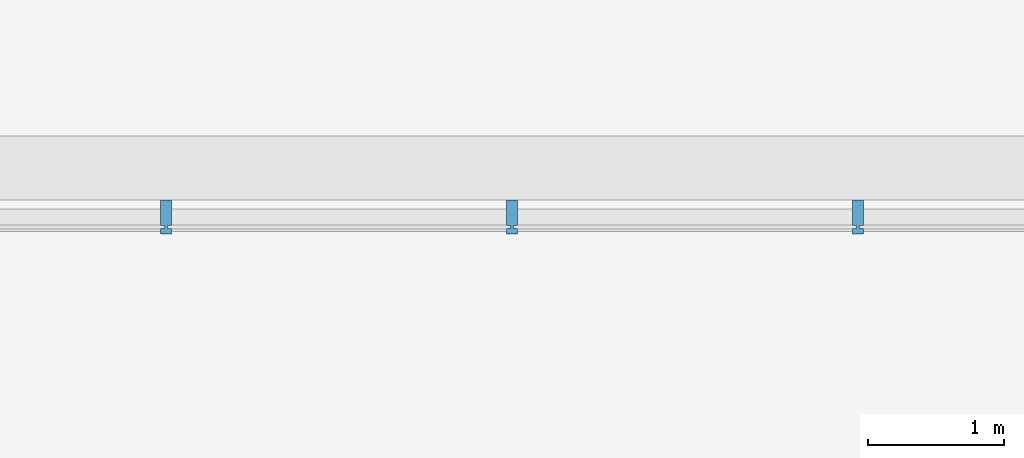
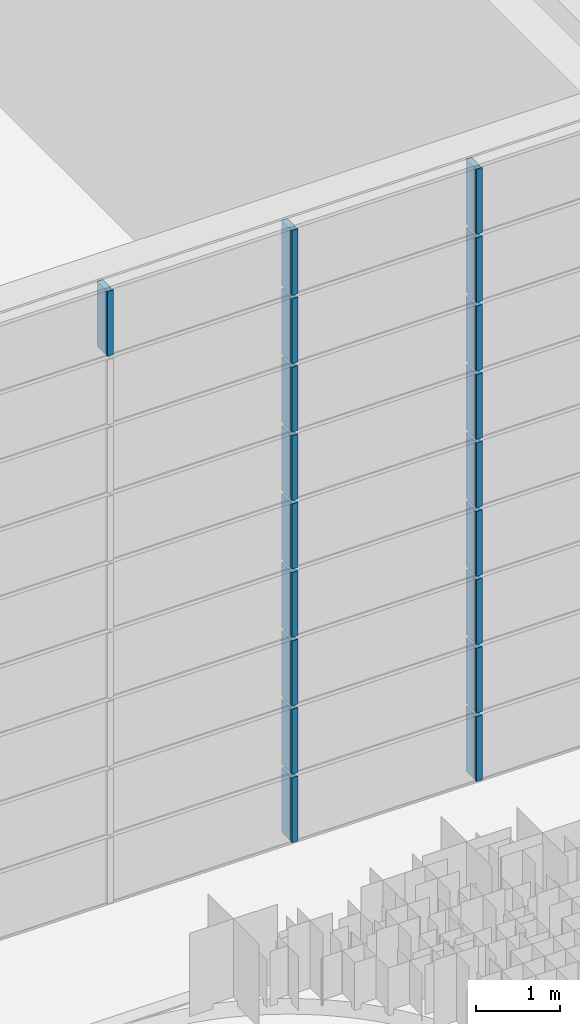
# One storey, part 96 of 105: 19 building element parts, 3 elements without a shape of their own.
"""IFC4 building model written with IfcOpenShell, lengths in millimetres."""

from ifc_helpers import new_model, entity, si_unit, converted_unit, derived_unit, direction, frame, origin_with_axes, place, context, subcontext, project, spatial, triangles, material, element, aggregate, save


model = new_model("IFC4")

# Units and contexts
model_context = context("Model", 3, precision=1e-05, world=origin_with_axes(), true_north=direction((0.0, 1.0)))
body_context = subcontext(model_context, "Body", "Model", "MODEL_VIEW")
ifc_project = project(units=[si_unit("LENGTHUNIT", "METRE", prefix="MILLI"), si_unit("AREAUNIT", "SQUARE_METRE"), si_unit("VOLUMEUNIT", "CUBIC_METRE"), converted_unit("PLANEANGLEUNIT", "DEGREE", entity("IfcLengthMeasure", 0.017453), si_unit("PLANEANGLEUNIT", "RADIAN"), dimensions=[0, 0, 0, 0, 0, 0, 0]), si_unit("SOLIDANGLEUNIT", "STERADIAN"), si_unit("MASSUNIT", "GRAM"), si_unit("TIMEUNIT", "SECOND"), si_unit("THERMODYNAMICTEMPERATUREUNIT", "DEGREE_CELSIUS"), si_unit("LUMINOUSINTENSITYUNIT", "LUMEN"), si_unit("POWERUNIT", "WATT"), derived_unit("THERMALTRANSMITTANCEUNIT", [(si_unit("POWERUNIT", "WATT"), 1), (si_unit("THERMODYNAMICTEMPERATUREUNIT", "KELVIN"), -1), (si_unit("AREAUNIT", "SQUARE_METRE"), -1)])], contexts=[model_context])

# Site, building, storey
site_placement = place(None, origin_with_axes())
site = spatial("IfcSite", under=ifc_project, at=site_placement, Name="Default Site", CompositionType="ELEMENT")
building_placement = place(site_placement, origin_with_axes())
building = spatial("IfcBuilding", under=site, at=building_placement, Name="Default Building", CompositionType="ELEMENT")
storey_placement = place(building_placement, origin_with_axes())
storey = spatial("IfcBuildingStorey", under=building, at=storey_placement, Name="OG - Story", CompositionType="ELEMENT", Elevation=0.0)

# Curtain wall, building element parts
curtain_wall_1_placement = place(storey_placement, origin_with_axes())
curtain_wall_1 = element("IfcCurtainWall", 1, at=curtain_wall_1_placement, inside=storey, Name="Fassade-005", PredefinedType="NOTDEFINED")
ifc_material = material(Name="Blech")
building_element_part_1_placement = place(curtain_wall_1_placement, frame((52496.845873, -27789.262838, 3000.0), z_axis=(0.0, 0.0, 1.0), x_axis=(1.0, 0.0, 0.0)))
building_element_part_1 = element("IfcBuildingElementPart", 2, at=building_element_part_1_placement, material=ifc_material, Name="Blech", PredefinedType="NOTDEFINED", context=body_context, shape_type="Tessellation", body=[
    triangles([(21722.727, 10.0, 975.0), (21722.727, 200.0, 975.0), (21692.727, 10.0, 975.0), (21672.727, 10.0, 975.0), (21692.727, -9.999, 975.0), (21722.727, -49.999, 975.0), (21722.727, -9.999, 975.0), (21642.727, 200.0, 975.0), (21642.727, 10.0, 975.0), (21672.727, -9.999, 975.0), (21642.727, -9.999, 975.0), (21642.727, -49.999, 975.0), (21692.727, 10.0, 25.0), (21722.727, 10.0, 25.0), (21722.727, 200.0, 25.0), (21642.727, 200.0, 25.0), (21642.727, 10.0, 25.0), (21672.727, 10.0, 25.0), (21672.727, -9.999, 25.0), (21642.727, -9.999, 25.0), (21642.727, -49.999, 25.0), (21722.727, -49.999, 25.0), (21722.727, -9.999, 25.0), (21692.727, -9.999, 25.0)], [[1, 2, 3], [3, 2, 4], [3, 4, 5], [5, 4, 6], [5, 6, 7], [8, 9, 4], [8, 4, 2], [6, 4, 10], [6, 10, 11], [6, 11, 12], [1, 3, 13], [1, 13, 14], [1, 14, 15], [1, 15, 2], [2, 15, 16], [2, 16, 8], [9, 8, 16], [9, 16, 17], [9, 17, 18], [9, 18, 4], [4, 18, 19], [4, 19, 10], [11, 10, 19], [11, 19, 20], [20, 21, 12], [20, 12, 11], [12, 21, 22], [12, 22, 6], [23, 7, 6], [23, 6, 22], [5, 7, 23], [5, 23, 24], [3, 5, 24], [3, 24, 13], [23, 22, 24], [24, 22, 19], [24, 19, 13], [13, 19, 15], [13, 15, 14], [21, 20, 19], [21, 19, 22], [15, 19, 18], [15, 18, 17], [15, 17, 16]], closed=False),
])
building_element_part_2_placement = place(curtain_wall_1_placement, frame((52496.845873, -27789.262838, 3000.0), z_axis=(0.0, 0.0, 1.0), x_axis=(1.0, 0.0, 0.0)))
building_element_part_2 = element("IfcBuildingElementPart", 3, at=building_element_part_2_placement, material=ifc_material, Name="Blech", PredefinedType="NOTDEFINED", context=body_context, shape_type="Tessellation", body=[
    triangles([(24273.636, 10.0, 975.0), (24273.636, 200.0, 975.0), (24243.636, 10.0, 975.0), (24223.636, 10.0, 975.0), (24243.636, -9.999, 975.0), (24273.636, -49.999, 975.0), (24273.636, -9.999, 975.0), (24193.636, 200.0, 975.0), (24193.636, 10.0, 975.0), (24223.636, -9.999, 975.0), (24193.636, -9.999, 975.0), (24193.636, -49.999, 975.0), (24243.636, 10.0, 25.0), (24273.636, 10.0, 25.0), (24273.636, 200.0, 25.0), (24193.636, 200.0, 25.0), (24193.636, 10.0, 25.0), (24223.636, 10.0, 25.0), (24223.636, -9.999, 25.0), (24193.636, -9.999, 25.0), (24193.636, -49.999, 25.0), (24273.636, -49.999, 25.0), (24273.636, -9.999, 25.0), (24243.636, -9.999, 25.0)], [[1, 2, 3], [3, 2, 4], [3, 4, 5], [5, 4, 6], [5, 6, 7], [8, 9, 4], [8, 4, 2], [6, 4, 10], [6, 10, 11], [6, 11, 12], [1, 3, 13], [1, 13, 14], [1, 14, 15], [1, 15, 2], [2, 15, 16], [2, 16, 8], [9, 8, 16], [9, 16, 17], [9, 17, 18], [9, 18, 4], [4, 18, 19], [4, 19, 10], [11, 10, 19], [11, 19, 20], [20, 21, 12], [20, 12, 11], [12, 21, 22], [12, 22, 6], [23, 7, 6], [23, 6, 22], [5, 7, 23], [5, 23, 24], [3, 5, 24], [3, 24, 13], [23, 22, 24], [24, 22, 19], [24, 19, 13], [13, 19, 15], [13, 15, 14], [21, 20, 19], [21, 19, 22], [15, 19, 18], [15, 18, 17], [15, 17, 16]], closed=False),
])
building_element_part_3_placement = place(curtain_wall_1_placement, frame((52496.845873, -27789.262838, 3000.0), z_axis=(0.0, 0.0, 1.0), x_axis=(1.0, 0.0, 0.0)))
building_element_part_3 = element("IfcBuildingElementPart", 4, at=building_element_part_3_placement, material=ifc_material, Name="Blech", PredefinedType="NOTDEFINED", context=body_context, shape_type="Tessellation", body=[
    triangles([(21722.727, 10.0, 1975.0), (21722.727, 200.0, 1975.0), (21692.727, 10.0, 1975.0), (21672.727, 10.0, 1975.0), (21692.727, -9.999, 1975.0), (21722.727, -49.999, 1975.0), (21722.727, -9.999, 1975.0), (21642.727, 200.0, 1975.0), (21642.727, 10.0, 1975.0), (21672.727, -9.999, 1975.0), (21642.727, -9.999, 1975.0), (21642.727, -49.999, 1975.0), (21692.727, 10.0, 1025.0), (21722.727, 10.0, 1025.0), (21722.727, 200.0, 1025.0), (21642.727, 200.0, 1025.0), (21642.727, 10.0, 1025.0), (21672.727, 10.0, 1025.0), (21672.727, -9.999, 1025.0), (21642.727, -9.999, 1025.0), (21642.727, -49.999, 1025.0), (21722.727, -49.999, 1025.0), (21722.727, -9.999, 1025.0), (21692.727, -9.999, 1025.0)], [[1, 2, 3], [3, 2, 4], [3, 4, 5], [5, 4, 6], [5, 6, 7], [8, 9, 4], [8, 4, 2], [6, 4, 10], [6, 10, 11], [6, 11, 12], [1, 3, 13], [1, 13, 14], [1, 14, 15], [1, 15, 2], [2, 15, 16], [2, 16, 8], [9, 8, 16], [9, 16, 17], [9, 17, 18], [9, 18, 4], [4, 18, 19], [4, 19, 10], [11, 10, 19], [11, 19, 20], [20, 21, 12], [20, 12, 11], [12, 21, 22], [12, 22, 6], [23, 7, 6], [23, 6, 22], [5, 7, 23], [5, 23, 24], [3, 5, 24], [3, 24, 13], [23, 22, 24], [24, 22, 19], [24, 19, 13], [13, 19, 15], [13, 15, 14], [21, 20, 19], [21, 19, 22], [15, 19, 18], [15, 18, 17], [15, 17, 16]], closed=False),
])
building_element_part_4_placement = place(curtain_wall_1_placement, frame((52496.845873, -27789.262838, 3000.0), z_axis=(0.0, 0.0, 1.0), x_axis=(1.0, 0.0, 0.0)))
building_element_part_4 = element("IfcBuildingElementPart", 5, at=building_element_part_4_placement, material=ifc_material, Name="Blech", PredefinedType="NOTDEFINED", context=body_context, shape_type="Tessellation", body=[
    triangles([(24273.636, 10.0, 1975.0), (24273.636, 200.0, 1975.0), (24243.636, 10.0, 1975.0), (24223.636, 10.0, 1975.0), (24243.636, -9.999, 1975.0), (24273.636, -49.999, 1975.0), (24273.636, -9.999, 1975.0), (24193.636, 200.0, 1975.0), (24193.636, 10.0, 1975.0), (24223.636, -9.999, 1975.0), (24193.636, -9.999, 1975.0), (24193.636, -49.999, 1975.0), (24243.636, 10.0, 1025.0), (24273.636, 10.0, 1025.0), (24273.636, 200.0, 1025.0), (24193.636, 200.0, 1025.0), (24193.636, 10.0, 1025.0), (24223.636, 10.0, 1025.0), (24223.636, -9.999, 1025.0), (24193.636, -9.999, 1025.0), (24193.636, -49.999, 1025.0), (24273.636, -49.999, 1025.0), (24273.636, -9.999, 1025.0), (24243.636, -9.999, 1025.0)], [[1, 2, 3], [3, 2, 4], [3, 4, 5], [5, 4, 6], [5, 6, 7], [8, 9, 4], [8, 4, 2], [6, 4, 10], [6, 10, 11], [6, 11, 12], [1, 3, 13], [1, 13, 14], [1, 14, 15], [1, 15, 2], [2, 15, 16], [2, 16, 8], [9, 8, 16], [9, 16, 17], [9, 17, 18], [9, 18, 4], [4, 18, 19], [4, 19, 10], [11, 10, 19], [11, 19, 20], [20, 21, 12], [20, 12, 11], [12, 21, 22], [12, 22, 6], [23, 7, 6], [23, 6, 22], [5, 7, 23], [5, 23, 24], [3, 5, 24], [3, 24, 13], [23, 22, 24], [24, 22, 19], [24, 19, 13], [13, 19, 15], [13, 15, 14], [21, 20, 19], [21, 19, 22], [15, 19, 18], [15, 18, 17], [15, 17, 16]], closed=False),
])
building_element_part_5_placement = place(curtain_wall_1_placement, frame((52496.845873, -27789.262838, 3000.0), z_axis=(0.0, 0.0, 1.0), x_axis=(1.0, 0.0, 0.0)))
building_element_part_5 = element("IfcBuildingElementPart", 6, at=building_element_part_5_placement, material=ifc_material, Name="Blech", PredefinedType="NOTDEFINED", context=body_context, shape_type="Tessellation", body=[
    triangles([(24273.636, 10.0, 2975.0), (24273.636, 200.0, 2975.0), (24243.636, 10.0, 2975.0), (24223.636, 10.0, 2975.0), (24243.636, -9.999, 2975.0), (24273.636, -49.999, 2975.0), (24273.636, -9.999, 2975.0), (24193.636, 200.0, 2975.0), (24193.636, 10.0, 2975.0), (24223.636, -9.999, 2975.0), (24193.636, -9.999, 2975.0), (24193.636, -49.999, 2975.0), (24243.636, 10.0, 2025.0), (24273.636, 10.0, 2025.0), (24273.636, 200.0, 2025.0), (24193.636, 200.0, 2025.0), (24193.636, 10.0, 2025.0), (24223.636, 10.0, 2025.0), (24223.636, -9.999, 2025.0), (24193.636, -9.999, 2025.0), (24193.636, -49.999, 2025.0), (24273.636, -49.999, 2025.0), (24273.636, -9.999, 2025.0), (24243.636, -9.999, 2025.0)], [[1, 2, 3], [3, 2, 4], [3, 4, 5], [5, 4, 6], [5, 6, 7], [8, 9, 4], [8, 4, 2], [6, 4, 10], [6, 10, 11], [6, 11, 12], [1, 3, 13], [1, 13, 14], [1, 14, 15], [1, 15, 2], [2, 15, 16], [2, 16, 8], [9, 8, 16], [9, 16, 17], [9, 17, 18], [9, 18, 4], [4, 18, 19], [4, 19, 10], [11, 10, 19], [11, 19, 20], [20, 21, 12], [20, 12, 11], [12, 21, 22], [12, 22, 6], [23, 7, 6], [23, 6, 22], [5, 7, 23], [5, 23, 24], [3, 5, 24], [3, 24, 13], [23, 22, 24], [24, 22, 19], [24, 19, 13], [13, 19, 15], [13, 15, 14], [21, 20, 19], [21, 19, 22], [15, 19, 18], [15, 18, 17], [15, 17, 16]], closed=False),
])
building_element_part_6_placement = place(curtain_wall_1_placement, frame((52496.845873, -27789.262838, 3000.0), z_axis=(0.0, 0.0, 1.0), x_axis=(1.0, 0.0, 0.0)))
building_element_part_6 = element("IfcBuildingElementPart", 7, at=building_element_part_6_placement, material=ifc_material, Name="Blech", PredefinedType="NOTDEFINED", context=body_context, shape_type="Tessellation", body=[
    triangles([(21722.727, 10.0, 2975.0), (21722.727, 200.0, 2975.0), (21692.727, 10.0, 2975.0), (21672.727, 10.0, 2975.0), (21692.727, -9.999, 2975.0), (21722.727, -49.999, 2975.0), (21722.727, -9.999, 2975.0), (21642.727, 200.0, 2975.0), (21642.727, 10.0, 2975.0), (21672.727, -9.999, 2975.0), (21642.727, -9.999, 2975.0), (21642.727, -49.999, 2975.0), (21692.727, 10.0, 2025.0), (21722.727, 10.0, 2025.0), (21722.727, 200.0, 2025.0), (21642.727, 200.0, 2025.0), (21642.727, 10.0, 2025.0), (21672.727, 10.0, 2025.0), (21672.727, -9.999, 2025.0), (21642.727, -9.999, 2025.0), (21642.727, -49.999, 2025.0), (21722.727, -49.999, 2025.0), (21722.727, -9.999, 2025.0), (21692.727, -9.999, 2025.0)], [[1, 2, 3], [3, 2, 4], [3, 4, 5], [5, 4, 6], [5, 6, 7], [8, 9, 4], [8, 4, 2], [6, 4, 10], [6, 10, 11], [6, 11, 12], [1, 3, 13], [1, 13, 14], [1, 14, 15], [1, 15, 2], [2, 15, 16], [2, 16, 8], [9, 8, 16], [9, 16, 17], [9, 17, 18], [9, 18, 4], [4, 18, 19], [4, 19, 10], [11, 10, 19], [11, 19, 20], [20, 21, 12], [20, 12, 11], [12, 21, 22], [12, 22, 6], [23, 7, 6], [23, 6, 22], [5, 7, 23], [5, 23, 24], [3, 5, 24], [3, 24, 13], [23, 22, 24], [24, 22, 19], [24, 19, 13], [13, 19, 15], [13, 15, 14], [21, 20, 19], [21, 19, 22], [15, 19, 18], [15, 18, 17], [15, 17, 16]], closed=False),
])
aggregate(curtain_wall_1, [building_element_part_1, building_element_part_2, building_element_part_3, building_element_part_4, building_element_part_5, building_element_part_6])

curtain_wall_2_placement = place(storey_placement, origin_with_axes())
curtain_wall_2 = element("IfcCurtainWall", 8, at=curtain_wall_2_placement, inside=storey, Name="Fassade-005", PredefinedType="NOTDEFINED")
building_element_part_7_placement = place(curtain_wall_2_placement, frame((52496.845873, -27789.262838, 6000.0), z_axis=(0.0, 0.0, 1.0), x_axis=(1.0, 0.0, 0.0)))
building_element_part_7 = element("IfcBuildingElementPart", 9, at=building_element_part_7_placement, material=ifc_material, Name="Blech", PredefinedType="NOTDEFINED", context=body_context, shape_type="Tessellation", body=[
    triangles([(21722.727, 10.0, 975.0), (21722.727, 200.0, 975.0), (21692.727, 10.0, 975.0), (21672.727, 10.0, 975.0), (21692.727, -9.999, 975.0), (21722.727, -49.999, 975.0), (21722.727, -9.999, 975.0), (21642.727, 200.0, 975.0), (21642.727, 10.0, 975.0), (21672.727, -9.999, 975.0), (21642.727, -9.999, 975.0), (21642.727, -49.999, 975.0), (21692.727, 10.0, 25.0), (21722.727, 10.0, 25.0), (21722.727, 200.0, 25.0), (21642.727, 200.0, 25.0), (21642.727, 10.0, 25.0), (21672.727, 10.0, 25.0), (21672.727, -9.999, 25.0), (21642.727, -9.999, 25.0), (21642.727, -49.999, 25.0), (21722.727, -49.999, 25.0), (21722.727, -9.999, 25.0), (21692.727, -9.999, 25.0)], [[1, 2, 3], [3, 2, 4], [3, 4, 5], [5, 4, 6], [5, 6, 7], [8, 9, 4], [8, 4, 2], [6, 4, 10], [6, 10, 11], [6, 11, 12], [1, 3, 13], [1, 13, 14], [1, 14, 15], [1, 15, 2], [2, 15, 16], [2, 16, 8], [9, 8, 16], [9, 16, 17], [9, 17, 18], [9, 18, 4], [4, 18, 19], [4, 19, 10], [11, 10, 19], [11, 19, 20], [20, 21, 12], [20, 12, 11], [12, 21, 22], [12, 22, 6], [23, 7, 6], [23, 6, 22], [5, 7, 23], [5, 23, 24], [3, 5, 24], [3, 24, 13], [23, 22, 24], [24, 22, 19], [24, 19, 13], [13, 19, 15], [13, 15, 14], [21, 20, 19], [21, 19, 22], [15, 19, 18], [15, 18, 17], [15, 17, 16]], closed=False),
])
building_element_part_8_placement = place(curtain_wall_2_placement, frame((52496.845873, -27789.262838, 6000.0), z_axis=(0.0, 0.0, 1.0), x_axis=(1.0, 0.0, 0.0)))
building_element_part_8 = element("IfcBuildingElementPart", 10, at=building_element_part_8_placement, material=ifc_material, Name="Blech", PredefinedType="NOTDEFINED", context=body_context, shape_type="Tessellation", body=[
    triangles([(24273.636, 10.0, 975.0), (24273.636, 200.0, 975.0), (24243.636, 10.0, 975.0), (24223.636, 10.0, 975.0), (24243.636, -9.999, 975.0), (24273.636, -49.999, 975.0), (24273.636, -9.999, 975.0), (24193.636, 200.0, 975.0), (24193.636, 10.0, 975.0), (24223.636, -9.999, 975.0), (24193.636, -9.999, 975.0), (24193.636, -49.999, 975.0), (24243.636, 10.0, 25.0), (24273.636, 10.0, 25.0), (24273.636, 200.0, 25.0), (24193.636, 200.0, 25.0), (24193.636, 10.0, 25.0), (24223.636, 10.0, 25.0), (24223.636, -9.999, 25.0), (24193.636, -9.999, 25.0), (24193.636, -49.999, 25.0), (24273.636, -49.999, 25.0), (24273.636, -9.999, 25.0), (24243.636, -9.999, 25.0)], [[1, 2, 3], [3, 2, 4], [3, 4, 5], [5, 4, 6], [5, 6, 7], [8, 9, 4], [8, 4, 2], [6, 4, 10], [6, 10, 11], [6, 11, 12], [1, 3, 13], [1, 13, 14], [1, 14, 15], [1, 15, 2], [2, 15, 16], [2, 16, 8], [9, 8, 16], [9, 16, 17], [9, 17, 18], [9, 18, 4], [4, 18, 19], [4, 19, 10], [11, 10, 19], [11, 19, 20], [20, 21, 12], [20, 12, 11], [12, 21, 22], [12, 22, 6], [23, 7, 6], [23, 6, 22], [5, 7, 23], [5, 23, 24], [3, 5, 24], [3, 24, 13], [23, 22, 24], [24, 22, 19], [24, 19, 13], [13, 19, 15], [13, 15, 14], [21, 20, 19], [21, 19, 22], [15, 19, 18], [15, 18, 17], [15, 17, 16]], closed=False),
])
building_element_part_9_placement = place(curtain_wall_2_placement, frame((52496.845873, -27789.262838, 6000.0), z_axis=(0.0, 0.0, 1.0), x_axis=(1.0, 0.0, 0.0)))
building_element_part_9 = element("IfcBuildingElementPart", 11, at=building_element_part_9_placement, material=ifc_material, Name="Blech", PredefinedType="NOTDEFINED", context=body_context, shape_type="Tessellation", body=[
    triangles([(21722.727, 10.0, 1975.0), (21722.727, 200.0, 1975.0), (21692.727, 10.0, 1975.0), (21672.727, 10.0, 1975.0), (21692.727, -9.999, 1975.0), (21722.727, -49.999, 1975.0), (21722.727, -9.999, 1975.0), (21642.727, 200.0, 1975.0), (21642.727, 10.0, 1975.0), (21672.727, -9.999, 1975.0), (21642.727, -9.999, 1975.0), (21642.727, -49.999, 1975.0), (21692.727, 10.0, 1025.0), (21722.727, 10.0, 1025.0), (21722.727, 200.0, 1025.0), (21642.727, 200.0, 1025.0), (21642.727, 10.0, 1025.0), (21672.727, 10.0, 1025.0), (21672.727, -9.999, 1025.0), (21642.727, -9.999, 1025.0), (21642.727, -49.999, 1025.0), (21722.727, -49.999, 1025.0), (21722.727, -9.999, 1025.0), (21692.727, -9.999, 1025.0)], [[1, 2, 3], [3, 2, 4], [3, 4, 5], [5, 4, 6], [5, 6, 7], [8, 9, 4], [8, 4, 2], [6, 4, 10], [6, 10, 11], [6, 11, 12], [1, 3, 13], [1, 13, 14], [1, 14, 15], [1, 15, 2], [2, 15, 16], [2, 16, 8], [9, 8, 16], [9, 16, 17], [9, 17, 18], [9, 18, 4], [4, 18, 19], [4, 19, 10], [11, 10, 19], [11, 19, 20], [20, 21, 12], [20, 12, 11], [12, 21, 22], [12, 22, 6], [23, 7, 6], [23, 6, 22], [5, 7, 23], [5, 23, 24], [3, 5, 24], [3, 24, 13], [23, 22, 24], [24, 22, 19], [24, 19, 13], [13, 19, 15], [13, 15, 14], [21, 20, 19], [21, 19, 22], [15, 19, 18], [15, 18, 17], [15, 17, 16]], closed=False),
])
building_element_part_10_placement = place(curtain_wall_2_placement, frame((52496.845873, -27789.262838, 6000.0), z_axis=(0.0, 0.0, 1.0), x_axis=(1.0, 0.0, 0.0)))
building_element_part_10 = element("IfcBuildingElementPart", 12, at=building_element_part_10_placement, material=ifc_material, Name="Blech", PredefinedType="NOTDEFINED", context=body_context, shape_type="Tessellation", body=[
    triangles([(24273.636, 10.0, 1975.0), (24273.636, 200.0, 1975.0), (24243.636, 10.0, 1975.0), (24223.636, 10.0, 1975.0), (24243.636, -9.999, 1975.0), (24273.636, -49.999, 1975.0), (24273.636, -9.999, 1975.0), (24193.636, 200.0, 1975.0), (24193.636, 10.0, 1975.0), (24223.636, -9.999, 1975.0), (24193.636, -9.999, 1975.0), (24193.636, -49.999, 1975.0), (24243.636, 10.0, 1025.0), (24273.636, 10.0, 1025.0), (24273.636, 200.0, 1025.0), (24193.636, 200.0, 1025.0), (24193.636, 10.0, 1025.0), (24223.636, 10.0, 1025.0), (24223.636, -9.999, 1025.0), (24193.636, -9.999, 1025.0), (24193.636, -49.999, 1025.0), (24273.636, -49.999, 1025.0), (24273.636, -9.999, 1025.0), (24243.636, -9.999, 1025.0)], [[1, 2, 3], [3, 2, 4], [3, 4, 5], [5, 4, 6], [5, 6, 7], [8, 9, 4], [8, 4, 2], [6, 4, 10], [6, 10, 11], [6, 11, 12], [1, 3, 13], [1, 13, 14], [1, 14, 15], [1, 15, 2], [2, 15, 16], [2, 16, 8], [9, 8, 16], [9, 16, 17], [9, 17, 18], [9, 18, 4], [4, 18, 19], [4, 19, 10], [11, 10, 19], [11, 19, 20], [20, 21, 12], [20, 12, 11], [12, 21, 22], [12, 22, 6], [23, 7, 6], [23, 6, 22], [5, 7, 23], [5, 23, 24], [3, 5, 24], [3, 24, 13], [23, 22, 24], [24, 22, 19], [24, 19, 13], [13, 19, 15], [13, 15, 14], [21, 20, 19], [21, 19, 22], [15, 19, 18], [15, 18, 17], [15, 17, 16]], closed=False),
])
building_element_part_11_placement = place(curtain_wall_2_placement, frame((52496.845873, -27789.262838, 6000.0), z_axis=(0.0, 0.0, 1.0), x_axis=(1.0, 0.0, 0.0)))
building_element_part_11 = element("IfcBuildingElementPart", 13, at=building_element_part_11_placement, material=ifc_material, Name="Blech", PredefinedType="NOTDEFINED", context=body_context, shape_type="Tessellation", body=[
    triangles([(24273.636, 10.0, 2975.0), (24273.636, 200.0, 2975.0), (24243.636, 10.0, 2975.0), (24223.636, 10.0, 2975.0), (24243.636, -9.999, 2975.0), (24273.636, -49.999, 2975.0), (24273.636, -9.999, 2975.0), (24193.636, 200.0, 2975.0), (24193.636, 10.0, 2975.0), (24223.636, -9.999, 2975.0), (24193.636, -9.999, 2975.0), (24193.636, -49.999, 2975.0), (24243.636, 10.0, 2025.0), (24273.636, 10.0, 2025.0), (24273.636, 200.0, 2025.0), (24193.636, 200.0, 2025.0), (24193.636, 10.0, 2025.0), (24223.636, 10.0, 2025.0), (24223.636, -9.999, 2025.0), (24193.636, -9.999, 2025.0), (24193.636, -49.999, 2025.0), (24273.636, -49.999, 2025.0), (24273.636, -9.999, 2025.0), (24243.636, -9.999, 2025.0)], [[1, 2, 3], [3, 2, 4], [3, 4, 5], [5, 4, 6], [5, 6, 7], [8, 9, 4], [8, 4, 2], [6, 4, 10], [6, 10, 11], [6, 11, 12], [1, 3, 13], [1, 13, 14], [1, 14, 15], [1, 15, 2], [2, 15, 16], [2, 16, 8], [9, 8, 16], [9, 16, 17], [9, 17, 18], [9, 18, 4], [4, 18, 19], [4, 19, 10], [11, 10, 19], [11, 19, 20], [20, 21, 12], [20, 12, 11], [12, 21, 22], [12, 22, 6], [23, 7, 6], [23, 6, 22], [5, 7, 23], [5, 23, 24], [3, 5, 24], [3, 24, 13], [23, 22, 24], [24, 22, 19], [24, 19, 13], [13, 19, 15], [13, 15, 14], [21, 20, 19], [21, 19, 22], [15, 19, 18], [15, 18, 17], [15, 17, 16]], closed=False),
])
building_element_part_12_placement = place(curtain_wall_2_placement, frame((52496.845873, -27789.262838, 6000.0), z_axis=(0.0, 0.0, 1.0), x_axis=(1.0, 0.0, 0.0)))
building_element_part_12 = element("IfcBuildingElementPart", 14, at=building_element_part_12_placement, material=ifc_material, Name="Blech", PredefinedType="NOTDEFINED", context=body_context, shape_type="Tessellation", body=[
    triangles([(21722.727, 10.0, 2975.0), (21722.727, 200.0, 2975.0), (21692.727, 10.0, 2975.0), (21672.727, 10.0, 2975.0), (21692.727, -9.999, 2975.0), (21722.727, -49.999, 2975.0), (21722.727, -9.999, 2975.0), (21642.727, 200.0, 2975.0), (21642.727, 10.0, 2975.0), (21672.727, -9.999, 2975.0), (21642.727, -9.999, 2975.0), (21642.727, -49.999, 2975.0), (21692.727, 10.0, 2025.0), (21722.727, 10.0, 2025.0), (21722.727, 200.0, 2025.0), (21642.727, 200.0, 2025.0), (21642.727, 10.0, 2025.0), (21672.727, 10.0, 2025.0), (21672.727, -9.999, 2025.0), (21642.727, -9.999, 2025.0), (21642.727, -49.999, 2025.0), (21722.727, -49.999, 2025.0), (21722.727, -9.999, 2025.0), (21692.727, -9.999, 2025.0)], [[1, 2, 3], [3, 2, 4], [3, 4, 5], [5, 4, 6], [5, 6, 7], [8, 9, 4], [8, 4, 2], [6, 4, 10], [6, 10, 11], [6, 11, 12], [1, 3, 13], [1, 13, 14], [1, 14, 15], [1, 15, 2], [2, 15, 16], [2, 16, 8], [9, 8, 16], [9, 16, 17], [9, 17, 18], [9, 18, 4], [4, 18, 19], [4, 19, 10], [11, 10, 19], [11, 19, 20], [20, 21, 12], [20, 12, 11], [12, 21, 22], [12, 22, 6], [23, 7, 6], [23, 6, 22], [5, 7, 23], [5, 23, 24], [3, 5, 24], [3, 24, 13], [23, 22, 24], [24, 22, 19], [24, 19, 13], [13, 19, 15], [13, 15, 14], [21, 20, 19], [21, 19, 22], [15, 19, 18], [15, 18, 17], [15, 17, 16]], closed=False),
])
aggregate(curtain_wall_2, [building_element_part_7, building_element_part_8, building_element_part_9, building_element_part_10, building_element_part_11, building_element_part_12])

curtain_wall_3_placement = place(storey_placement, origin_with_axes())
curtain_wall_3 = element("IfcCurtainWall", 15, at=curtain_wall_3_placement, inside=storey, Name="Fassade-005", PredefinedType="NOTDEFINED")
building_element_part_13_placement = place(curtain_wall_3_placement, frame((52496.845873, -27789.262838, 9000.0), z_axis=(0.0, 0.0, 1.0), x_axis=(1.0, 0.0, 0.0)))
building_element_part_13 = element("IfcBuildingElementPart", 16, at=building_element_part_13_placement, material=ifc_material, Name="Blech", PredefinedType="NOTDEFINED", context=body_context, shape_type="Tessellation", body=[
    triangles([(21722.727, 10.0, 975.0), (21722.727, 200.0, 975.0), (21692.727, 10.0, 975.0), (21672.727, 10.0, 975.0), (21692.727, -9.999, 975.0), (21722.727, -49.999, 975.0), (21722.727, -9.999, 975.0), (21642.727, 200.0, 975.0), (21642.727, 10.0, 975.0), (21672.727, -9.999, 975.0), (21642.727, -9.999, 975.0), (21642.727, -49.999, 975.0), (21692.727, 10.0, 25.0), (21722.727, 10.0, 25.0), (21722.727, 200.0, 25.0), (21642.727, 200.0, 25.0), (21642.727, 10.0, 25.0), (21672.727, 10.0, 25.0), (21672.727, -9.999, 25.0), (21642.727, -9.999, 25.0), (21642.727, -49.999, 25.0), (21722.727, -49.999, 25.0), (21722.727, -9.999, 25.0), (21692.727, -9.999, 25.0)], [[1, 2, 3], [3, 2, 4], [3, 4, 5], [5, 4, 6], [5, 6, 7], [8, 9, 4], [8, 4, 2], [6, 4, 10], [6, 10, 11], [6, 11, 12], [1, 3, 13], [1, 13, 14], [1, 14, 15], [1, 15, 2], [2, 15, 16], [2, 16, 8], [9, 8, 16], [9, 16, 17], [9, 17, 18], [9, 18, 4], [4, 18, 19], [4, 19, 10], [11, 10, 19], [11, 19, 20], [20, 21, 12], [20, 12, 11], [12, 21, 22], [12, 22, 6], [23, 7, 6], [23, 6, 22], [5, 7, 23], [5, 23, 24], [3, 5, 24], [3, 24, 13], [23, 22, 24], [24, 22, 19], [24, 19, 13], [13, 19, 15], [13, 15, 14], [21, 20, 19], [21, 19, 22], [15, 19, 18], [15, 18, 17], [15, 17, 16]], closed=False),
])
building_element_part_14_placement = place(curtain_wall_3_placement, frame((52496.845873, -27789.262838, 9000.0), z_axis=(0.0, 0.0, 1.0), x_axis=(1.0, 0.0, 0.0)))
building_element_part_14 = element("IfcBuildingElementPart", 17, at=building_element_part_14_placement, material=ifc_material, Name="Blech", PredefinedType="NOTDEFINED", context=body_context, shape_type="Tessellation", body=[
    triangles([(24273.636, 10.0, 975.0), (24273.636, 200.0, 975.0), (24243.636, 10.0, 975.0), (24223.636, 10.0, 975.0), (24243.636, -9.999, 975.0), (24273.636, -49.999, 975.0), (24273.636, -9.999, 975.0), (24193.636, 200.0, 975.0), (24193.636, 10.0, 975.0), (24223.636, -9.999, 975.0), (24193.636, -9.999, 975.0), (24193.636, -49.999, 975.0), (24243.636, 10.0, 25.0), (24273.636, 10.0, 25.0), (24273.636, 200.0, 25.0), (24193.636, 200.0, 25.0), (24193.636, 10.0, 25.0), (24223.636, 10.0, 25.0), (24223.636, -9.999, 25.0), (24193.636, -9.999, 25.0), (24193.636, -49.999, 25.0), (24273.636, -49.999, 25.0), (24273.636, -9.999, 25.0), (24243.636, -9.999, 25.0)], [[1, 2, 3], [3, 2, 4], [3, 4, 5], [5, 4, 6], [5, 6, 7], [8, 9, 4], [8, 4, 2], [6, 4, 10], [6, 10, 11], [6, 11, 12], [1, 3, 13], [1, 13, 14], [1, 14, 15], [1, 15, 2], [2, 15, 16], [2, 16, 8], [9, 8, 16], [9, 16, 17], [9, 17, 18], [9, 18, 4], [4, 18, 19], [4, 19, 10], [11, 10, 19], [11, 19, 20], [20, 21, 12], [20, 12, 11], [12, 21, 22], [12, 22, 6], [23, 7, 6], [23, 6, 22], [5, 7, 23], [5, 23, 24], [3, 5, 24], [3, 24, 13], [23, 22, 24], [24, 22, 19], [24, 19, 13], [13, 19, 15], [13, 15, 14], [21, 20, 19], [21, 19, 22], [15, 19, 18], [15, 18, 17], [15, 17, 16]], closed=False),
])
building_element_part_15_placement = place(curtain_wall_3_placement, frame((52496.845873, -27789.262838, 9000.0), z_axis=(0.0, 0.0, 1.0), x_axis=(1.0, 0.0, 0.0)))
building_element_part_15 = element("IfcBuildingElementPart", 18, at=building_element_part_15_placement, material=ifc_material, Name="Blech", PredefinedType="NOTDEFINED", context=body_context, shape_type="Tessellation", body=[
    triangles([(21722.727, 10.0, 1975.0), (21722.727, 200.0, 1975.0), (21692.727, 10.0, 1975.0), (21672.727, 10.0, 1975.0), (21692.727, -9.999, 1975.0), (21722.727, -49.999, 1975.0), (21722.727, -9.999, 1975.0), (21642.727, 200.0, 1975.0), (21642.727, 10.0, 1975.0), (21672.727, -9.999, 1975.0), (21642.727, -9.999, 1975.0), (21642.727, -49.999, 1975.0), (21692.727, 10.0, 1025.0), (21722.727, 10.0, 1025.0), (21722.727, 200.0, 1025.0), (21642.727, 200.0, 1025.0), (21642.727, 10.0, 1025.0), (21672.727, 10.0, 1025.0), (21672.727, -9.999, 1025.0), (21642.727, -9.999, 1025.0), (21642.727, -49.999, 1025.0), (21722.727, -49.999, 1025.0), (21722.727, -9.999, 1025.0), (21692.727, -9.999, 1025.0)], [[1, 2, 3], [3, 2, 4], [3, 4, 5], [5, 4, 6], [5, 6, 7], [8, 9, 4], [8, 4, 2], [6, 4, 10], [6, 10, 11], [6, 11, 12], [1, 3, 13], [1, 13, 14], [1, 14, 15], [1, 15, 2], [2, 15, 16], [2, 16, 8], [9, 8, 16], [9, 16, 17], [9, 17, 18], [9, 18, 4], [4, 18, 19], [4, 19, 10], [11, 10, 19], [11, 19, 20], [20, 21, 12], [20, 12, 11], [12, 21, 22], [12, 22, 6], [23, 7, 6], [23, 6, 22], [5, 7, 23], [5, 23, 24], [3, 5, 24], [3, 24, 13], [23, 22, 24], [24, 22, 19], [24, 19, 13], [13, 19, 15], [13, 15, 14], [21, 20, 19], [21, 19, 22], [15, 19, 18], [15, 18, 17], [15, 17, 16]], closed=False),
])
building_element_part_16_placement = place(curtain_wall_3_placement, frame((52496.845873, -27789.262838, 9000.0), z_axis=(0.0, 0.0, 1.0), x_axis=(1.0, 0.0, 0.0)))
building_element_part_16 = element("IfcBuildingElementPart", 19, at=building_element_part_16_placement, material=ifc_material, Name="Blech", PredefinedType="NOTDEFINED", context=body_context, shape_type="Tessellation", body=[
    triangles([(24273.636, 10.0, 1975.0), (24273.636, 200.0, 1975.0), (24243.636, 10.0, 1975.0), (24223.636, 10.0, 1975.0), (24243.636, -9.999, 1975.0), (24273.636, -49.999, 1975.0), (24273.636, -9.999, 1975.0), (24193.636, 200.0, 1975.0), (24193.636, 10.0, 1975.0), (24223.636, -9.999, 1975.0), (24193.636, -9.999, 1975.0), (24193.636, -49.999, 1975.0), (24243.636, 10.0, 1025.0), (24273.636, 10.0, 1025.0), (24273.636, 200.0, 1025.0), (24193.636, 200.0, 1025.0), (24193.636, 10.0, 1025.0), (24223.636, 10.0, 1025.0), (24223.636, -9.999, 1025.0), (24193.636, -9.999, 1025.0), (24193.636, -49.999, 1025.0), (24273.636, -49.999, 1025.0), (24273.636, -9.999, 1025.0), (24243.636, -9.999, 1025.0)], [[1, 2, 3], [3, 2, 4], [3, 4, 5], [5, 4, 6], [5, 6, 7], [8, 9, 4], [8, 4, 2], [6, 4, 10], [6, 10, 11], [6, 11, 12], [1, 3, 13], [1, 13, 14], [1, 14, 15], [1, 15, 2], [2, 15, 16], [2, 16, 8], [9, 8, 16], [9, 16, 17], [9, 17, 18], [9, 18, 4], [4, 18, 19], [4, 19, 10], [11, 10, 19], [11, 19, 20], [20, 21, 12], [20, 12, 11], [12, 21, 22], [12, 22, 6], [23, 7, 6], [23, 6, 22], [5, 7, 23], [5, 23, 24], [3, 5, 24], [3, 24, 13], [23, 22, 24], [24, 22, 19], [24, 19, 13], [13, 19, 15], [13, 15, 14], [21, 20, 19], [21, 19, 22], [15, 19, 18], [15, 18, 17], [15, 17, 16]], closed=False),
])
building_element_part_17_placement = place(curtain_wall_3_placement, frame((52496.845873, -27789.262838, 9000.0), z_axis=(0.0, 0.0, 1.0), x_axis=(1.0, 0.0, 0.0)))
building_element_part_17 = element("IfcBuildingElementPart", 20, at=building_element_part_17_placement, material=ifc_material, Name="Blech", PredefinedType="NOTDEFINED", context=body_context, shape_type="Tessellation", body=[
    triangles([(24273.636, 10.0, 2975.0), (24273.636, 200.0, 2975.0), (24243.636, 10.0, 2975.0), (24223.636, 10.0, 2975.0), (24243.636, -9.999, 2975.0), (24273.636, -49.999, 2975.0), (24273.636, -9.999, 2975.0), (24193.636, 200.0, 2975.0), (24193.636, 10.0, 2975.0), (24223.636, -9.999, 2975.0), (24193.636, -9.999, 2975.0), (24193.636, -49.999, 2975.0), (24243.636, 10.0, 2025.0), (24273.636, 10.0, 2025.0), (24273.636, 200.0, 2025.0), (24193.636, 200.0, 2025.0), (24193.636, 10.0, 2025.0), (24223.636, 10.0, 2025.0), (24223.636, -9.999, 2025.0), (24193.636, -9.999, 2025.0), (24193.636, -49.999, 2025.0), (24273.636, -49.999, 2025.0), (24273.636, -9.999, 2025.0), (24243.636, -9.999, 2025.0)], [[1, 2, 3], [3, 2, 4], [3, 4, 5], [5, 4, 6], [5, 6, 7], [8, 9, 4], [8, 4, 2], [6, 4, 10], [6, 10, 11], [6, 11, 12], [1, 3, 13], [1, 13, 14], [1, 14, 15], [1, 15, 2], [2, 15, 16], [2, 16, 8], [9, 8, 16], [9, 16, 17], [9, 17, 18], [9, 18, 4], [4, 18, 19], [4, 19, 10], [11, 10, 19], [11, 19, 20], [20, 21, 12], [20, 12, 11], [12, 21, 22], [12, 22, 6], [23, 7, 6], [23, 6, 22], [5, 7, 23], [5, 23, 24], [3, 5, 24], [3, 24, 13], [23, 22, 24], [24, 22, 19], [24, 19, 13], [13, 19, 15], [13, 15, 14], [21, 20, 19], [21, 19, 22], [15, 19, 18], [15, 18, 17], [15, 17, 16]], closed=False),
])
building_element_part_18_placement = place(curtain_wall_3_placement, frame((52496.845873, -27789.262838, 9000.0), z_axis=(0.0, 0.0, 1.0), x_axis=(1.0, 0.0, 0.0)))
building_element_part_18 = element("IfcBuildingElementPart", 21, at=building_element_part_18_placement, material=ifc_material, Name="Blech", PredefinedType="NOTDEFINED", context=body_context, shape_type="Tessellation", body=[
    triangles([(19171.818, 10.0, 2975.0), (19171.818, 200.0, 2975.0), (19141.818, 10.0, 2975.0), (19121.818, 10.0, 2975.0), (19141.818, -9.999, 2975.0), (19171.818, -49.999, 2975.0), (19171.818, -9.999, 2975.0), (19091.818, 200.0, 2975.0), (19091.818, 10.0, 2975.0), (19121.818, -9.999, 2975.0), (19091.818, -9.999, 2975.0), (19091.818, -49.999, 2975.0), (19141.818, 10.0, 2025.0), (19171.818, 10.0, 2025.0), (19171.818, 200.0, 2025.0), (19091.818, 200.0, 2025.0), (19091.818, 10.0, 2025.0), (19121.818, 10.0, 2025.0), (19121.818, -9.999, 2025.0), (19091.818, -9.999, 2025.0), (19091.818, -49.999, 2025.0), (19171.818, -49.999, 2025.0), (19171.818, -9.999, 2025.0), (19141.818, -9.999, 2025.0)], [[1, 2, 3], [3, 2, 4], [3, 4, 5], [5, 4, 6], [5, 6, 7], [8, 9, 4], [8, 4, 2], [6, 4, 10], [6, 10, 11], [6, 11, 12], [1, 3, 13], [1, 13, 14], [1, 14, 15], [1, 15, 2], [2, 15, 16], [2, 16, 8], [9, 8, 16], [9, 16, 17], [9, 17, 18], [9, 18, 4], [4, 18, 19], [4, 19, 10], [11, 10, 19], [11, 19, 20], [20, 21, 12], [20, 12, 11], [12, 21, 22], [12, 22, 6], [23, 7, 6], [23, 6, 22], [5, 7, 23], [5, 23, 24], [3, 5, 24], [3, 24, 13], [23, 22, 24], [24, 22, 19], [24, 19, 13], [13, 19, 15], [13, 15, 14], [21, 20, 19], [21, 19, 22], [15, 19, 18], [15, 18, 17], [15, 17, 16]], closed=False),
])
building_element_part_19_placement = place(curtain_wall_3_placement, frame((52496.845873, -27789.262838, 9000.0), z_axis=(0.0, 0.0, 1.0), x_axis=(1.0, 0.0, 0.0)))
building_element_part_19 = element("IfcBuildingElementPart", 22, at=building_element_part_19_placement, material=ifc_material, Name="Blech", PredefinedType="NOTDEFINED", context=body_context, shape_type="Tessellation", body=[
    triangles([(21722.727, 10.0, 2975.0), (21722.727, 200.0, 2975.0), (21692.727, 10.0, 2975.0), (21672.727, 10.0, 2975.0), (21692.727, -9.999, 2975.0), (21722.727, -49.999, 2975.0), (21722.727, -9.999, 2975.0), (21642.727, 200.0, 2975.0), (21642.727, 10.0, 2975.0), (21672.727, -9.999, 2975.0), (21642.727, -9.999, 2975.0), (21642.727, -49.999, 2975.0), (21692.727, 10.0, 2025.0), (21722.727, 10.0, 2025.0), (21722.727, 200.0, 2025.0), (21642.727, 200.0, 2025.0), (21642.727, 10.0, 2025.0), (21672.727, 10.0, 2025.0), (21672.727, -9.999, 2025.0), (21642.727, -9.999, 2025.0), (21642.727, -49.999, 2025.0), (21722.727, -49.999, 2025.0), (21722.727, -9.999, 2025.0), (21692.727, -9.999, 2025.0)], [[1, 2, 3], [3, 2, 4], [3, 4, 5], [5, 4, 6], [5, 6, 7], [8, 9, 4], [8, 4, 2], [6, 4, 10], [6, 10, 11], [6, 11, 12], [1, 3, 13], [1, 13, 14], [1, 14, 15], [1, 15, 2], [2, 15, 16], [2, 16, 8], [9, 8, 16], [9, 16, 17], [9, 17, 18], [9, 18, 4], [4, 18, 19], [4, 19, 10], [11, 10, 19], [11, 19, 20], [20, 21, 12], [20, 12, 11], [12, 21, 22], [12, 22, 6], [23, 7, 6], [23, 6, 22], [5, 7, 23], [5, 23, 24], [3, 5, 24], [3, 24, 13], [23, 22, 24], [24, 22, 19], [24, 19, 13], [13, 19, 15], [13, 15, 14], [21, 20, 19], [21, 19, 22], [15, 19, 18], [15, 18, 17], [15, 17, 16]], closed=False),
])
aggregate(curtain_wall_3, [building_element_part_13, building_element_part_14, building_element_part_15, building_element_part_16, building_element_part_17, building_element_part_18, building_element_part_19])

save(model, "model.ifc")
